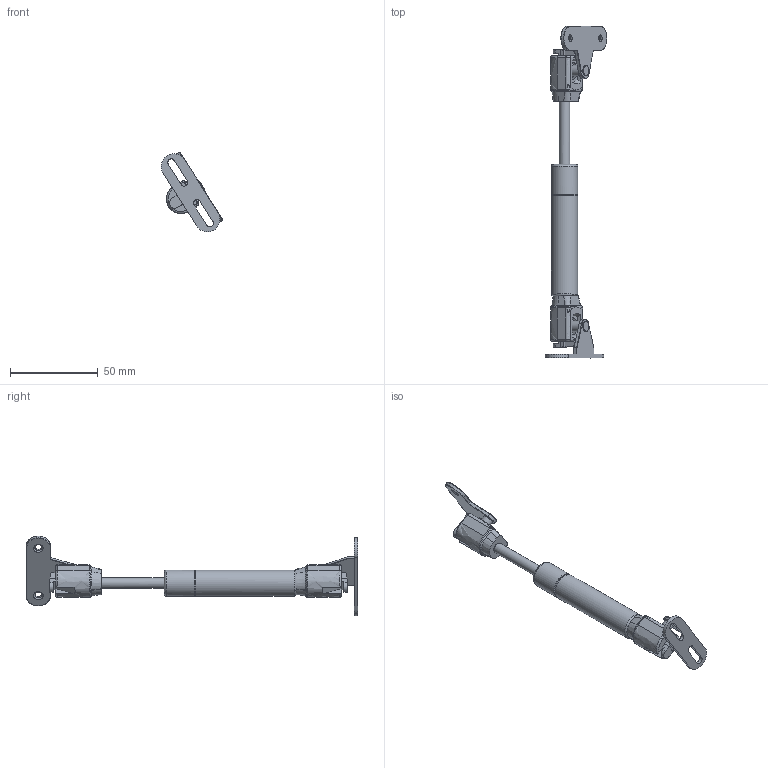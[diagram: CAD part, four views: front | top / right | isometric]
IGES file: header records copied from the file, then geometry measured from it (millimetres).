
Global section: file name: DR_GB-150; native system: Autodesk Inventor 2015; preprocessor: unknown; author: user; date: 20180227.113708; units: millimetre
Bounding box: 35.09 x 189.5 x 45.47 mm (x, y, z)
Volume: 28165.6 mm3; surface area: 14710.7 mm2
Topology: 6 solids, 6 shells, 246 faces, 607 edges, 384 vertices
Faces by surface type: bspline 246
